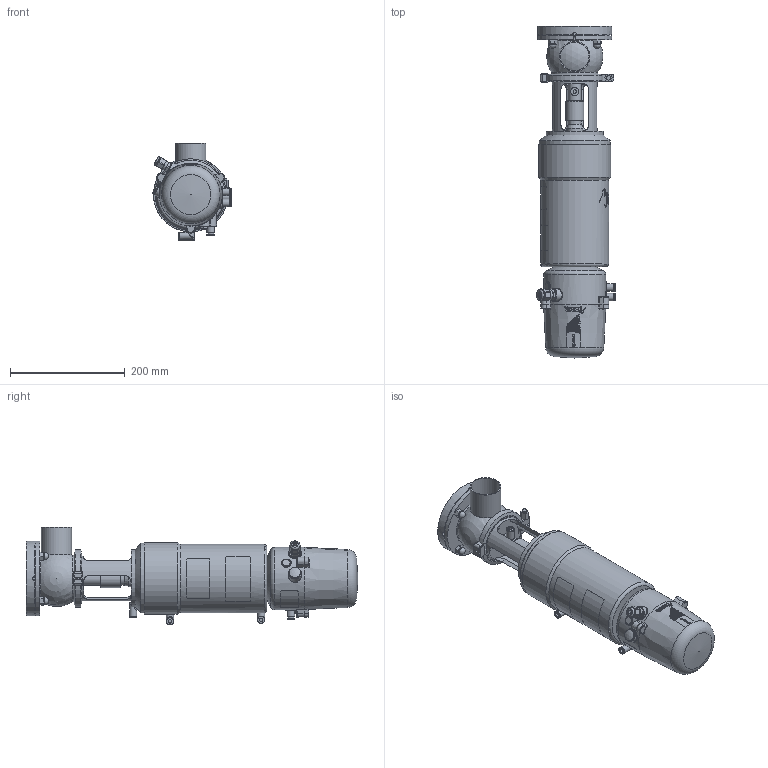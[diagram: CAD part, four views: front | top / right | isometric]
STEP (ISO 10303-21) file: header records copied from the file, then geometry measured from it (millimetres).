
FILE_DESCRIPTION (( 'STEP AP214' ), '1' );
FILE_NAME ('INNOVA T L W DIN 050 WITH FLANGE & C-TOP S_10.252.16.0007.STEP', '2024-08-20T12:53:28', ( '' ), ( '' ), 'SwSTEP 2.0', 'SolidWorks 2023', '' );
FILE_SCHEMA (( 'AUTOMOTIVE_DESIGN' ));
Length unit declared in the file: millimetre
Products named in the file (7): 10.240.15.0001_DN 050; 10.240.15.0006_DIN 050; 10.250.15.0002_Type T T1; 10.426.15.0001_C-TOP S - 3 EV; 10.252.15.0001_DIN 050; INNOVA T L W DIN 050 WITH FLANGE & C-TOP S_10.252.16.0007; 10.248.15.0003_DIN 050 _ OD 2"
Assembly tree (6 placements, depth 2):
  INNOVA T L W DIN 050 WITH FLANGE & C-TOP S_10.252.16.0007
    10.240.15.0006_DIN 050
    10.248.15.0003_DIN 050 _ OD 2"
    10.252.15.0001_DIN 050
    10.250.15.0002_Type T T1
    10.240.15.0001_DN 050
    10.426.15.0001_C-TOP S - 3 EV
Bounding box: 137.63 x 579.33 x 171 mm (x, y, z)
Volume: 4994603.3 mm3; surface area: 379969.8 mm2
Topology: 6 solids, 6 shells, 1199 faces, 2894 edges, 1924 vertices
Faces by surface type: plane 417, cylinder 380, cone 196, bspline 163, torus 33, sphere 10
Full cylindrical faces by diameter (mm): 0.371 x17, 0.512 x16, 0.658 x16, 0.795 x16, 0.94 x15, 1.098 x15, 1.241 x13, 1.382 x13, 1.523 x11, 1.669 x10, 2.201 x1, 4.2 x2, 5 x1, 5.5 x2, 6 x5, 6.15 x3, 8 x3, 10 x1, 10.5 x3, 11 x4, 12 x1, 12.5 x13, 13 x6, 13.5 x2, 14 x2, 17 x3, 20 x2, 22 x2, 23 x2, 28 x1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
Entity records: 60617 total; most frequent: CARTESIAN_POINT 28327, ORIENTED_EDGE 4894, DIRECTION 4019, EDGE_CURVE 2447, VERTEX_POINT 1739, EDGE_LOOP 1688, AXIS2_PLACEMENT_3D 1624, FACE_OUTER_BOUND 1429
